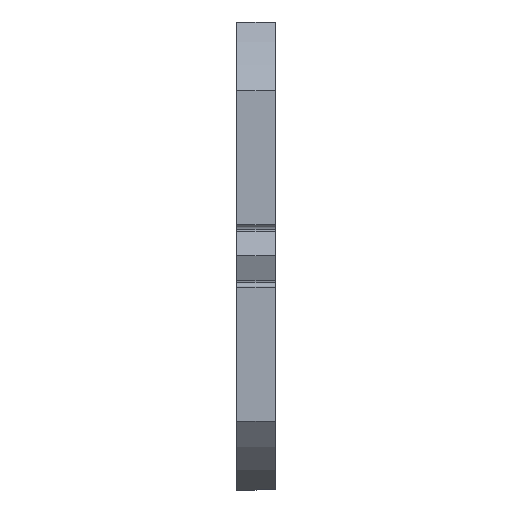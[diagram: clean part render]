
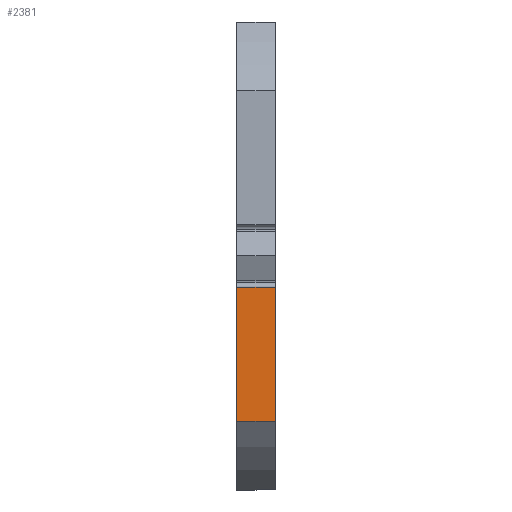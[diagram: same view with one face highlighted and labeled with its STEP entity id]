
A CAD part, left-side view. The second image highlights one B-rep face of the part: STEP entity #2381.
In plain terms, the highlighted planar face has unit normal (-1, 0, 0).
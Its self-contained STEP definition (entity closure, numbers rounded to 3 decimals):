
#78 = VERTEX_POINT ( 'NONE', #2675 ) ;
#129 = LINE ( 'NONE', #1522, #2180 ) ;
#199 = EDGE_CURVE ( 'NONE', #3281, #2415, #1848, .T. ) ;
#428 = CARTESIAN_POINT ( 'NONE',  ( -245., 0., -173.133 ) ) ;
#555 = EDGE_CURVE ( 'NONE', #1139, #78, #129, .T. ) ;
#647 = DIRECTION ( 'NONE',  ( 1., 0., 0. ) ) ;
#691 = ORIENTED_EDGE ( 'NONE', *, *, #2065, .F. ) ;
#719 = CARTESIAN_POINT ( 'NONE',  ( -245., 0., -32.5 ) ) ;
#733 = DIRECTION ( 'NONE',  ( 0., 1., 0. ) ) ;
#891 = PLANE ( 'NONE',  #3403 ) ;
#970 = LINE ( 'NONE', #719, #3397 ) ;
#1091 = ORIENTED_EDGE ( 'NONE', *, *, #1683, .T. ) ;
#1139 = VERTEX_POINT ( 'NONE', #2939 ) ;
#1239 = VECTOR ( 'NONE', #2555, 1000. ) ;
#1376 = FACE_OUTER_BOUND ( 'NONE', #1732, .T. ) ;
#1522 = CARTESIAN_POINT ( 'NONE',  ( -245., 0., -32.5 ) ) ;
#1534 = LINE ( 'NONE', #428, #1239 ) ;
#1683 = EDGE_CURVE ( 'NONE', #1139, #3281, #970, .T. ) ;
#1732 = EDGE_LOOP ( 'NONE', ( #1772, #691, #2926, #1091 ) ) ;
#1772 = ORIENTED_EDGE ( 'NONE', *, *, #199, .T. ) ;
#1848 = LINE ( 'NONE', #1866, #2931 ) ;
#1866 = CARTESIAN_POINT ( 'NONE',  ( -245., 40., -32.5 ) ) ;
#2065 = EDGE_CURVE ( 'NONE', #78, #2415, #1534, .T. ) ;
#2167 = CARTESIAN_POINT ( 'NONE',  ( -245., 0., -32.5 ) ) ;
#2180 = VECTOR ( 'NONE', #2791, 1000. ) ;
#2183 = DIRECTION ( 'NONE',  ( 0., 0., -1. ) ) ;
#2381 = ADVANCED_FACE ( 'NONE', ( #1376 ), #891, .F. ) ;
#2415 = VERTEX_POINT ( 'NONE', #3092 ) ;
#2555 = DIRECTION ( 'NONE',  ( 0., 1., 0. ) ) ;
#2675 = CARTESIAN_POINT ( 'NONE',  ( -245., 0., -173.133 ) ) ;
#2791 = DIRECTION ( 'NONE',  ( 0., 0., -1. ) ) ;
#2891 = DIRECTION ( 'NONE',  ( 0., 0., -1. ) ) ;
#2926 = ORIENTED_EDGE ( 'NONE', *, *, #555, .F. ) ;
#2931 = VECTOR ( 'NONE', #2891, 1000. ) ;
#2939 = CARTESIAN_POINT ( 'NONE',  ( -245., 0., -32.5 ) ) ;
#3092 = CARTESIAN_POINT ( 'NONE',  ( -245., 40., -173.133 ) ) ;
#3124 = CARTESIAN_POINT ( 'NONE',  ( -245., 40., -32.5 ) ) ;
#3281 = VERTEX_POINT ( 'NONE', #3124 ) ;
#3397 = VECTOR ( 'NONE', #733, 1000. ) ;
#3403 = AXIS2_PLACEMENT_3D ( 'NONE', #2167, #647, #2183 ) ;
